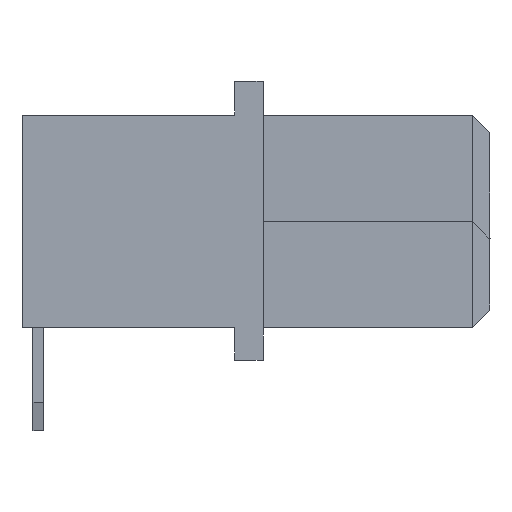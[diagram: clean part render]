
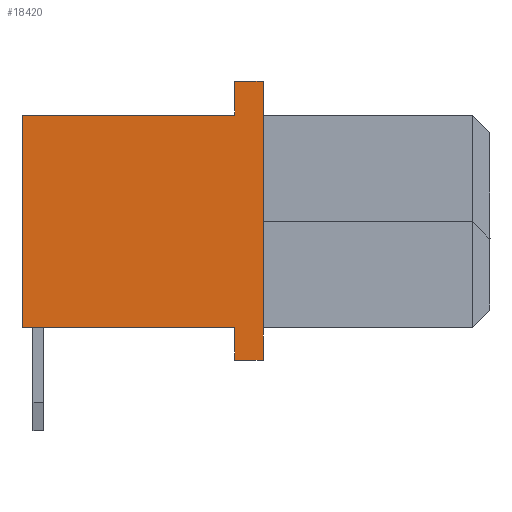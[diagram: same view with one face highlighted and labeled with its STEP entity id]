
A CAD part, left-side view. The second image highlights one B-rep face of the part: STEP entity #18420.
In plain terms, the highlighted planar face has unit normal (-1, 0, 0).
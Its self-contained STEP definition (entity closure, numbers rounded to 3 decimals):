
#15183 = VERTEX_POINT ( 'NONE', #22396 ) ;
#15190 = VERTEX_POINT ( 'NONE', #22403 ) ;
#15200 = VERTEX_POINT ( 'NONE', #22413 ) ;
#15202 = VERTEX_POINT ( 'NONE', #22415 ) ;
#15203 = VERTEX_POINT ( 'NONE', #22416 ) ;
#15204 = VERTEX_POINT ( 'NONE', #22417 ) ;
#15208 = VERTEX_POINT ( 'NONE', #22421 ) ;
#15212 = VERTEX_POINT ( 'NONE', #22425 ) ;
#17730 = VECTOR ( 'NONE', #28248, 1000. ) ;
#17733 = VECTOR ( 'NONE', #28245, 1000. ) ;
#17743 = VECTOR ( 'NONE', #28236, 1000. ) ;
#17802 = VECTOR ( 'NONE', #28175, 1000. ) ;
#17807 = VECTOR ( 'NONE', #28169, 1000. ) ;
#17820 = VECTOR ( 'NONE', #28157, 1000. ) ;
#17828 = VECTOR ( 'NONE', #28146, 1000. ) ;
#17838 = VECTOR ( 'NONE', #28136, 1000. ) ;
#18420 = ADVANCED_FACE ( 'NONE', ( #21037 ), #21038, .T. ) ;
#18955 = EDGE_CURVE ( 'NONE', #15204, #15208, #28134, .T. ) ;
#18958 = EDGE_CURVE ( 'NONE', #15203, #15212, #28143, .T. ) ;
#18962 = EDGE_CURVE ( 'NONE', #15202, #15200, #28144, .T. ) ;
#18966 = EDGE_CURVE ( 'NONE', #15212, #15202, #28167, .T. ) ;
#18968 = EDGE_CURVE ( 'NONE', #15204, #15203, #28173, .T. ) ;
#18988 = EDGE_CURVE ( 'NONE', #15190, #15208, #28234, .T. ) ;
#18991 = EDGE_CURVE ( 'NONE', #15190, #15183, #28243, .T. ) ;
#18992 = EDGE_CURVE ( 'NONE', #15183, #15200, #28246, .T. ) ;
#19639 = EDGE_LOOP ( 'NONE', ( #27464, #27466, #27468, #27470, #27472, #27474, #27477, #27479 ) ) ;
#21029 = CARTESIAN_POINT ( 'NONE',  ( -55.617, 8.445, -2.54 ) ) ;
#21037 = FACE_OUTER_BOUND ( 'NONE', #19639, .T. ) ;
#21038 = PLANE ( 'NONE',  #28797 ) ;
#21040 = DIRECTION ( 'NONE',  ( -1., 0., 0. ) ) ;
#21041 = DIRECTION ( 'NONE',  ( 0., 0., 1. ) ) ;
#22396 = CARTESIAN_POINT ( 'NONE',  ( -55.617, 3.845, -9.45 ) ) ;
#22403 = CARTESIAN_POINT ( 'NONE',  ( -55.617, 3.845, -1.59 ) ) ;
#22413 = CARTESIAN_POINT ( 'NONE',  ( -55.617, 4.645, -9.45 ) ) ;
#22415 = CARTESIAN_POINT ( 'NONE',  ( -55.617, 4.645, -8.54 ) ) ;
#22416 = CARTESIAN_POINT ( 'NONE',  ( -55.617, 10.645, -2.54 ) ) ;
#22417 = CARTESIAN_POINT ( 'NONE',  ( -55.617, 4.645, -2.54 ) ) ;
#22421 = CARTESIAN_POINT ( 'NONE',  ( -55.617, 4.645, -1.59 ) ) ;
#22425 = CARTESIAN_POINT ( 'NONE',  ( -55.617, 10.645, -8.54 ) ) ;
#27464 = ORIENTED_EDGE ( 'NONE', *, *, #18991, .F. ) ;
#27466 = ORIENTED_EDGE ( 'NONE', *, *, #18988, .T. ) ;
#27468 = ORIENTED_EDGE ( 'NONE', *, *, #18955, .F. ) ;
#27470 = ORIENTED_EDGE ( 'NONE', *, *, #18968, .T. ) ;
#27472 = ORIENTED_EDGE ( 'NONE', *, *, #18958, .T. ) ;
#27474 = ORIENTED_EDGE ( 'NONE', *, *, #18966, .T. ) ;
#27477 = ORIENTED_EDGE ( 'NONE', *, *, #18962, .T. ) ;
#27479 = ORIENTED_EDGE ( 'NONE', *, *, #18992, .F. ) ;
#28134 = LINE ( 'NONE', #28135, #17838 ) ;
#28135 = CARTESIAN_POINT ( 'NONE',  ( -55.617, 4.645, -1.59 ) ) ;
#28136 = DIRECTION ( 'NONE',  ( 0., 0., 1. ) ) ;
#28143 = LINE ( 'NONE', #28145, #17828 ) ;
#28144 = LINE ( 'NONE', #28156, #17820 ) ;
#28145 = CARTESIAN_POINT ( 'NONE',  ( -55.617, 10.645, -2.54 ) ) ;
#28146 = DIRECTION ( 'NONE',  ( 0., 0., -1. ) ) ;
#28156 = CARTESIAN_POINT ( 'NONE',  ( -55.617, 4.645, -2.54 ) ) ;
#28157 = DIRECTION ( 'NONE',  ( 0., 0., -1. ) ) ;
#28167 = LINE ( 'NONE', #28168, #17807 ) ;
#28168 = CARTESIAN_POINT ( 'NONE',  ( -55.617, 8.445, -8.54 ) ) ;
#28169 = DIRECTION ( 'NONE',  ( 0., -1., 0. ) ) ;
#28173 = LINE ( 'NONE', #28174, #17802 ) ;
#28174 = CARTESIAN_POINT ( 'NONE',  ( -55.617, 8.445, -2.54 ) ) ;
#28175 = DIRECTION ( 'NONE',  ( 0., 1., 0. ) ) ;
#28234 = LINE ( 'NONE', #28235, #17743 ) ;
#28235 = CARTESIAN_POINT ( 'NONE',  ( -55.617, 8.445, -1.59 ) ) ;
#28236 = DIRECTION ( 'NONE',  ( 0., 1., 0. ) ) ;
#28243 = LINE ( 'NONE', #28244, #17733 ) ;
#28244 = CARTESIAN_POINT ( 'NONE',  ( -55.617, 3.845, -11.04 ) ) ;
#28245 = DIRECTION ( 'NONE',  ( 0., 0., -1. ) ) ;
#28246 = LINE ( 'NONE', #28247, #17730 ) ;
#28247 = CARTESIAN_POINT ( 'NONE',  ( -55.617, 4.645, -9.45 ) ) ;
#28248 = DIRECTION ( 'NONE',  ( 0., 1., 0. ) ) ;
#28797 = AXIS2_PLACEMENT_3D ( 'NONE', #21029, #21040, #21041 ) ;
